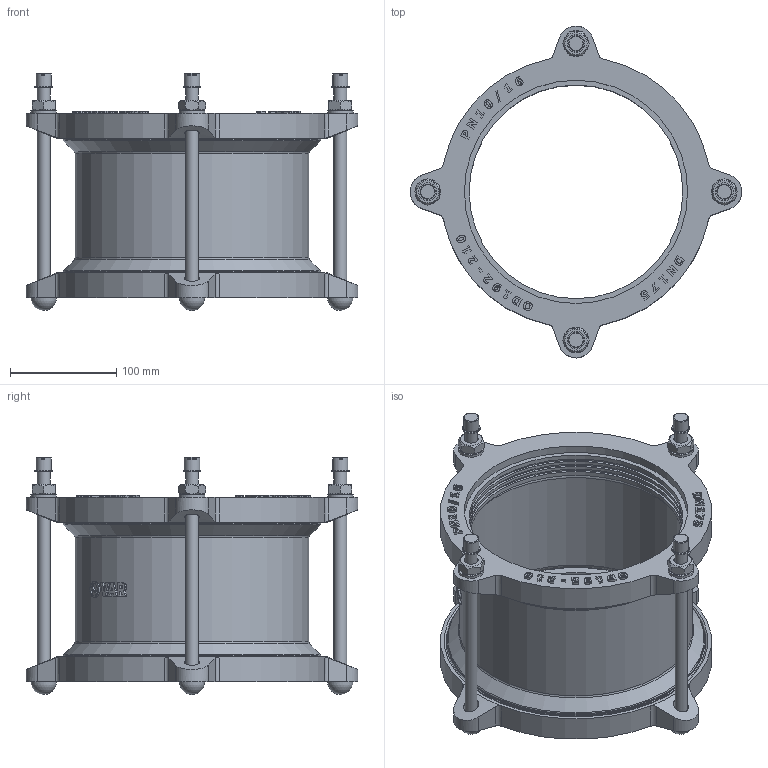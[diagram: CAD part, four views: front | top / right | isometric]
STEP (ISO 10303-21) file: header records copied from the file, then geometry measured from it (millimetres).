
FILE_DESCRIPTION(('STEP AP203'), '1');
FILE_NAME('Cîåäèíèòåëüíàÿ ìóôòà äëÿ æåñòêèõ òðóá', '', ('UNSPECIFIED'), ('UNSPECIFIED'), 'C3D Converter', 'C3D Toolkit', '');
FILE_SCHEMA(('CONFIG_CONTROL_DESIGN'));
Length unit declared in the file: millimetre
Assembly tree (21 placements, depth 2):
  (unnamed)
    (unnamed)
    (unnamed)  x4
    (unnamed)  x4
    (unnamed)  x4
    (unnamed)  x4
    (unnamed)
    (unnamed)
    (unnamed)  x2
Bounding box: 312 x 312 x 223.2 mm (x, y, z)
Volume: 1631031.3 mm3; surface area: 551603 mm2
Topology: 25 solids, 25 shells, 749 faces, 1876 edges, 1232 vertices
Faces by surface type: plane 298, extrusion 286, cylinder 105, cone 34, torus 22, sphere 4
Full cylindrical faces by diameter (mm): 12 x12, 13 x4, 14 x8, 14.4 x4, 14.703 x1, 16.8 x4, 24 x4, 201 x8, 205.5 x6, 210 x3, 215 x2, 220 x3, 242.5 x2, 245 x4
Entity records: 29387 total; most frequent: CARTESIAN_POINT 10326, ORIENTED_EDGE 3220, DIRECTION 2146, EDGE_CURVE 1610, VERTEX_POINT 1102, VECTOR 1068, B_SPLINE_CURVE_WITH_KNOTS 919, EDGE_LOOP 784
